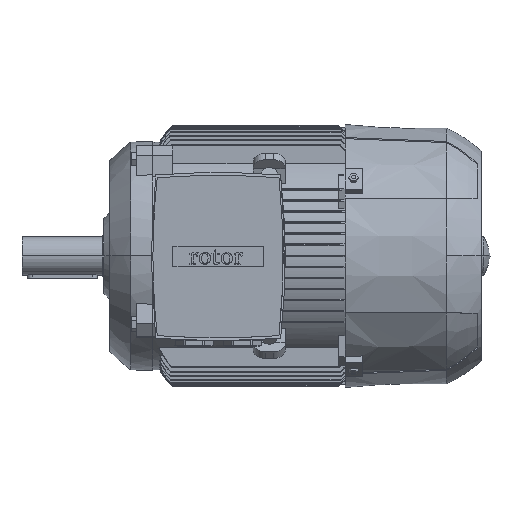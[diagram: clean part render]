
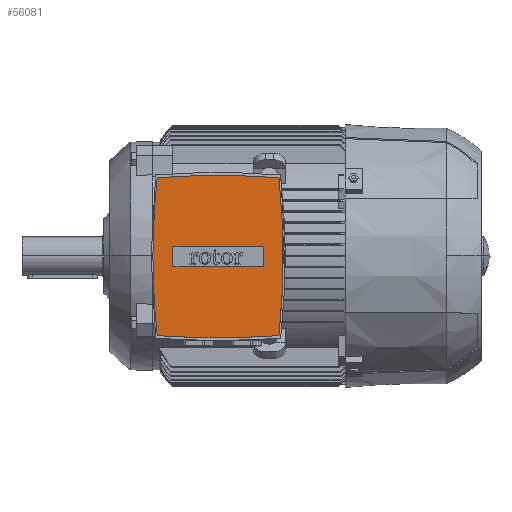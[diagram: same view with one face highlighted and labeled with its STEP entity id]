
A CAD part, top view. The second image highlights one B-rep face of the part: STEP entity #56081.
In plain terms, the highlighted planar face has unit normal (0, 0, 1).
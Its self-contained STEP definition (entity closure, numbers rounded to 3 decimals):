
#1536 = LINE ( 'NONE', #33884, #54160 ) ;
#1852 = VERTEX_POINT ( 'NONE', #57213 ) ;
#1988 = VERTEX_POINT ( 'NONE', #3943 ) ;
#2634 = DIRECTION ( 'NONE',  ( 1., 0., 0. ) ) ;
#3745 = AXIS2_PLACEMENT_3D ( 'NONE', #55113, #54668, #54494 ) ;
#3943 = CARTESIAN_POINT ( 'NONE',  ( 0., -1., 214.5 ) ) ;
#4642 = ORIENTED_EDGE ( 'NONE', *, *, #46857, .F. ) ;
#5281 = EDGE_CURVE ( 'NONE', #50827, #56813, #55753, .T. ) ;
#5291 = EDGE_CURVE ( 'NONE', #1988, #53023, #43075, .T. ) ;
#5476 = EDGE_CURVE ( 'NONE', #1852, #53305, #1536, .T. ) ;
#5563 = EDGE_CURVE ( 'NONE', #27169, #1852, #44221, .T. ) ;
#5565 = EDGE_CURVE ( 'NONE', #19088, #27169, #40016, .T. ) ;
#8107 = EDGE_LOOP ( 'NONE', ( #11722, #43016, #41531, #11137 ) ) ;
#9449 = CIRCLE ( 'NONE', #34473, 828.12 ) ;
#9506 = CARTESIAN_POINT ( 'NONE',  ( 125.661, 77.775, 214.5 ) ) ;
#10646 = AXIS2_PLACEMENT_3D ( 'NONE', #56105, #29829, #2634 ) ;
#11137 = ORIENTED_EDGE ( 'NONE', *, *, #5563, .T. ) ;
#11722 = ORIENTED_EDGE ( 'NONE', *, *, #5476, .T. ) ;
#12257 = ORIENTED_EDGE ( 'NONE', *, *, #5291, .F. ) ;
#15421 = CARTESIAN_POINT ( 'NONE',  ( 125.661, -79.775, 214.5 ) ) ;
#15936 = CARTESIAN_POINT ( 'NONE',  ( 4.339, -79.775, 214.5 ) ) ;
#16686 = EDGE_CURVE ( 'NONE', #53305, #19088, #17782, .T. ) ;
#17719 = VECTOR ( 'NONE', #25676, 1000. ) ;
#17782 = LINE ( 'NONE', #24207, #17719 ) ;
#18452 = CIRCLE ( 'NONE', #45438, 717.2 ) ;
#19088 = VERTEX_POINT ( 'NONE', #48911 ) ;
#20433 = CIRCLE ( 'NONE', #3745, 828.12 ) ;
#20892 = CARTESIAN_POINT ( 'NONE',  ( 110., 9.05, 214.5 ) ) ;
#21010 = CARTESIAN_POINT ( 'NONE',  ( 717.2, -1., 214.5 ) ) ;
#22313 = CARTESIAN_POINT ( 'NONE',  ( 4.339, 77.775, 214.5 ) ) ;
#22515 = CARTESIAN_POINT ( 'NONE',  ( 20., -11.05, 214.5 ) ) ;
#24207 = CARTESIAN_POINT ( 'NONE',  ( 110., -1., 214.5 ) ) ;
#25247 = CARTESIAN_POINT ( 'NONE',  ( 65., -748.12, 214.5 ) ) ;
#25557 = DIRECTION ( 'NONE',  ( -1., 0., 0. ) ) ;
#25676 = DIRECTION ( 'NONE',  ( 0., -1., 0. ) ) ;
#27169 = VERTEX_POINT ( 'NONE', #22515 ) ;
#28393 = DIRECTION ( 'NONE',  ( -1., 0., 0. ) ) ;
#28583 = CARTESIAN_POINT ( 'NONE',  ( 65., -11.05, 214.5 ) ) ;
#28992 = DIRECTION ( 'NONE',  ( 0., 1., 0. ) ) ;
#29720 = DIRECTION ( 'NONE',  ( -1., 0., 0. ) ) ;
#29829 = DIRECTION ( 'NONE',  ( 0., 0., 1. ) ) ;
#30171 = CARTESIAN_POINT ( 'NONE',  ( 20., -1., 214.5 ) ) ;
#31765 = ORIENTED_EDGE ( 'NONE', *, *, #5281, .F. ) ;
#32555 = DIRECTION ( 'NONE',  ( 1., 0., 0. ) ) ;
#32830 = EDGE_CURVE ( 'NONE', #56813, #51489, #20433, .T. ) ;
#33884 = CARTESIAN_POINT ( 'NONE',  ( 65., 9.05, 214.5 ) ) ;
#34473 = AXIS2_PLACEMENT_3D ( 'NONE', #25247, #55996, #29720 ) ;
#38608 = PLANE ( 'NONE',  #10646 ) ;
#38733 = AXIS2_PLACEMENT_3D ( 'NONE', #41150, #41039, #40899 ) ;
#38929 = AXIS2_PLACEMENT_3D ( 'NONE', #42697, #42619, #42572 ) ;
#40016 = LINE ( 'NONE', #28583, #57604 ) ;
#40251 = EDGE_LOOP ( 'NONE', ( #4642, #12257, #57712, #46371, #31765 ) ) ;
#40899 = DIRECTION ( 'NONE',  ( -1., 0., 0. ) ) ;
#41039 = DIRECTION ( 'NONE',  ( 0., 0., -1. ) ) ;
#41150 = CARTESIAN_POINT ( 'NONE',  ( 717.2, -1., 214.5 ) ) ;
#41531 = ORIENTED_EDGE ( 'NONE', *, *, #5565, .T. ) ;
#42572 = DIRECTION ( 'NONE',  ( -1., 0., 0. ) ) ;
#42619 = DIRECTION ( 'NONE',  ( 0., 0., -1. ) ) ;
#42697 = CARTESIAN_POINT ( 'NONE',  ( -587.2, -1., 214.5 ) ) ;
#43016 = ORIENTED_EDGE ( 'NONE', *, *, #16686, .T. ) ;
#43075 = CIRCLE ( 'NONE', #38733, 717.2 ) ;
#43163 = EDGE_CURVE ( 'NONE', #51489, #1988, #18452, .T. ) ;
#44221 = LINE ( 'NONE', #30171, #57776 ) ;
#45438 = AXIS2_PLACEMENT_3D ( 'NONE', #21010, #52135, #25557 ) ;
#46371 = ORIENTED_EDGE ( 'NONE', *, *, #32830, .F. ) ;
#46857 = EDGE_CURVE ( 'NONE', #53023, #50827, #9449, .T. ) ;
#48387 = FACE_OUTER_BOUND ( 'NONE', #40251, .T. ) ;
#48632 = FACE_BOUND ( 'NONE', #8107, .T. ) ;
#48911 = CARTESIAN_POINT ( 'NONE',  ( 110., -11.05, 214.5 ) ) ;
#50827 = VERTEX_POINT ( 'NONE', #9506 ) ;
#51489 = VERTEX_POINT ( 'NONE', #15936 ) ;
#52135 = DIRECTION ( 'NONE',  ( 0., 0., -1. ) ) ;
#53023 = VERTEX_POINT ( 'NONE', #22313 ) ;
#53305 = VERTEX_POINT ( 'NONE', #20892 ) ;
#54160 = VECTOR ( 'NONE', #32555, 1000. ) ;
#54494 = DIRECTION ( 'NONE',  ( -1., 0., 0. ) ) ;
#54668 = DIRECTION ( 'NONE',  ( 0., 0., -1. ) ) ;
#55113 = CARTESIAN_POINT ( 'NONE',  ( 65., 746.12, 214.5 ) ) ;
#55753 = CIRCLE ( 'NONE', #38929, 717.2 ) ;
#55996 = DIRECTION ( 'NONE',  ( 0., 0., -1. ) ) ;
#56081 = ADVANCED_FACE ( 'NONE', ( #48387, #48632 ), #38608, .T. ) ;
#56105 = CARTESIAN_POINT ( 'NONE',  ( 65., -1., 214.5 ) ) ;
#56813 = VERTEX_POINT ( 'NONE', #15421 ) ;
#57213 = CARTESIAN_POINT ( 'NONE',  ( 20., 9.05, 214.5 ) ) ;
#57604 = VECTOR ( 'NONE', #28393, 1000. ) ;
#57712 = ORIENTED_EDGE ( 'NONE', *, *, #43163, .F. ) ;
#57776 = VECTOR ( 'NONE', #28992, 1000. ) ;
